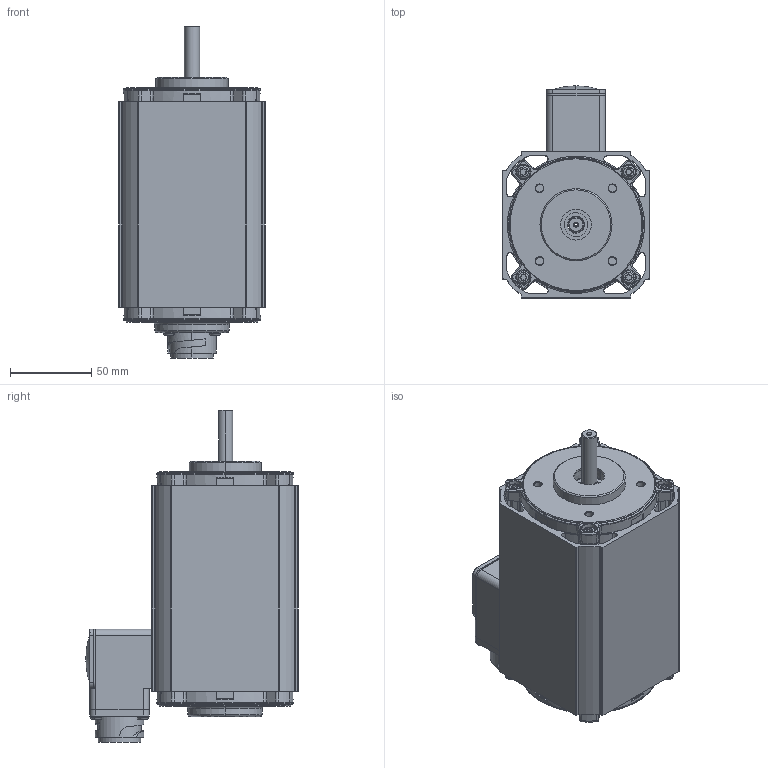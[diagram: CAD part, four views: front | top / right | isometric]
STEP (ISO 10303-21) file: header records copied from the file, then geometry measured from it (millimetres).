
FILE_DESCRIPTION (( 'STEP AP203' ), '1' );
FILE_NAME ('BL8040.STEP', '2006-08-17T18:21:25', ( 'Eng-KVV2' ), ( 'Groschopp' ), 'SwSTEP 2.0', 'SolidWorks 2006104', '' );
FILE_SCHEMA (( 'CONFIG_CONTROL_DESIGN' ));
Length unit declared in the file: inch
Products named in the file (1): BL8040
Bounding box: 90.25 x 131.01 x 204.86 mm (x, y, z)
Surface area: 130841.2 mm2 (no closed solid volume)
Topology: 0 solids, 41 shells, 936 faces, 2879 edges, 1932 vertices
Faces by surface type: plane 368, cylinder 274, bspline 100, cone 95, torus 81, sphere 18
Entity records: 51939 total; most frequent: CARTESIAN_POINT 26826, DIRECTION 5215, ORIENTED_EDGE 5033, EDGE_CURVE 2879, AXIS2_PLACEMENT_3D 2023, VERTEX_POINT 1932, CIRCLE 1186, VECTOR 1169
